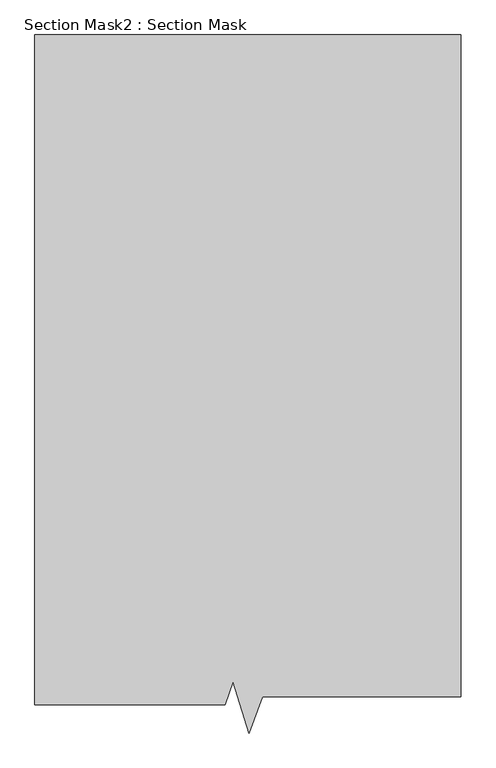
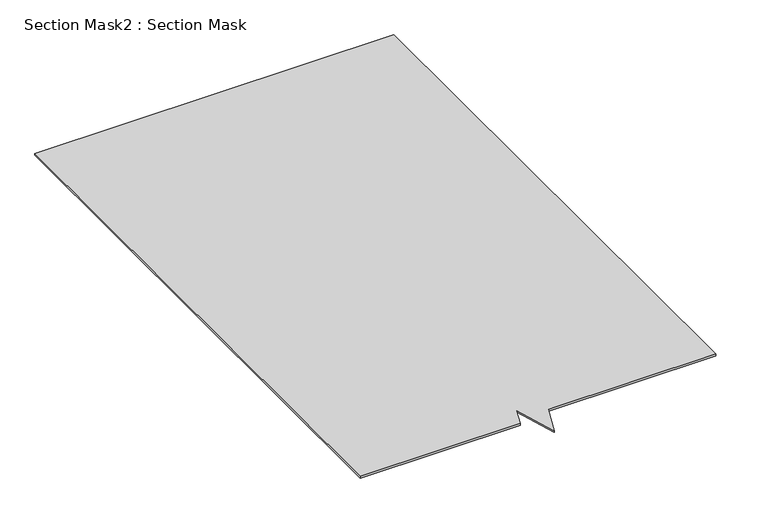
"""IFC4 building model written with IfcOpenShell, lengths in millimetres: proxy geometry, Section Mask2 : Section Mask."""

from ifc_helpers import new_model, si_unit, frame, origin, place, context, project, spatial, polyline, outline, extrude, source, transform, mapped, element, save


def section_mask2_section_mask_7c0c0077(model_context):
    return source(origin(), model_context, "Body", "SweptSolid", [
        extrude(outline(polyline([(8353.264325, 631.273934), (7832.4046746, 631.273934), (7832.4046746, 2465.4614947), (9000.8447008, 2465.4614947), (9000.8447008, 652.1224056), (8455.8982256, 652.1224056), (8419.2813689, 552.9595639), (8376.2812645, 693.6065681), (8353.264325, 631.273934)])), frame((0.0, 0.0, 59.3148345), z_axis=(0.0, 0.0, 1.0), x_axis=(1.0, 0.0, 0.0)), (0.0, 0.0, 1.0), 5.6926241),
    ])


if __name__ == "__main__":
    model = new_model("IFC4")
    model_context = context("Model", 3, world=origin())
    ifc_project = project(units=[si_unit("LENGTHUNIT", "METRE", prefix="MILLI")], contexts=[model_context])
    site = spatial("IfcSite", under=ifc_project)
    building = spatial("IfcBuilding", under=site)
    placement = place(None, origin())
    section_mask2_section_mask_shape = section_mask2_section_mask_7c0c0077(model_context)
    element("IfcBuildingElementProxy", 1, Name="Section Mask2 : Section Mask", ObjectType="Section Mask2 : Section Mask", at=placement, inside=building, context=model_context, shape_type="MappedRepresentation", body=[
        mapped(section_mask2_section_mask_shape, transform((0.0, 0.0, 0.0), x_axis=(1.0, 0.0, 0.0), y_axis=(0.0, 1.0, 0.0), z_axis=(0.0, 0.0, 1.0))),
    ])
    save(model, "model.ifc")
